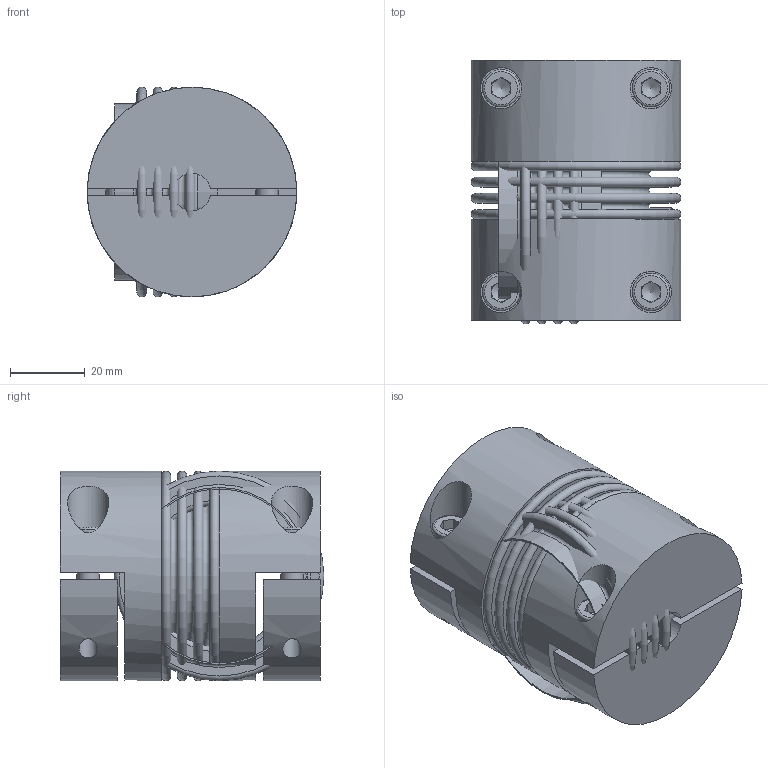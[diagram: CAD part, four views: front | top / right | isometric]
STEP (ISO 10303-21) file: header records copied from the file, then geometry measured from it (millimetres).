
FILE_DESCRIPTION( ( 'Unknown' ), '1' );
FILE_NAME( 'C:/Dokumente und Einstellungen/SKarpstein/Desktop/hp kbk/KB4H-30-69.stp', 'Unknown', ( 'Unknown' ), ( 'Unknown' ), 'XStep 1.0', 'Unknown', ' ' );
FILE_SCHEMA( ( 'automotive_design' ) );
Length unit declared in the file: millimetre
Products named in the file (5): Assem1; KN4H-30; BK30_Standard_0; Socket Head Cap Screw_DIN_DIN 912 M6 x 20 --- 20N_3
Bounding box: 56 x 70.44 x 56 mm (x, y, z)
Volume: 185868.6 mm3; surface area: 97763 mm2
Topology: 13 solids, 13 shells, 244 faces, 505 edges, 327 vertices
Faces by surface type: plane 144, cylinder 48, torus 42, cone 10
Full cylindrical faces by diameter (mm): 4.917 x6, 6 x5, 6.4 x6, 10 x8, 11 x6, 46.5 x4, 47.3 x4, 56 x3
Entity records: 2522 total; most frequent: CARTESIAN_POINT 569, DIRECTION 358, ORIENTED_EDGE 226, AXIS2_PLACEMENT_3D 159, EDGE_LOOP 144, EDGE_CURVE 113, FACE_OUTER_BOUND 112, VERTEX_POINT 94
